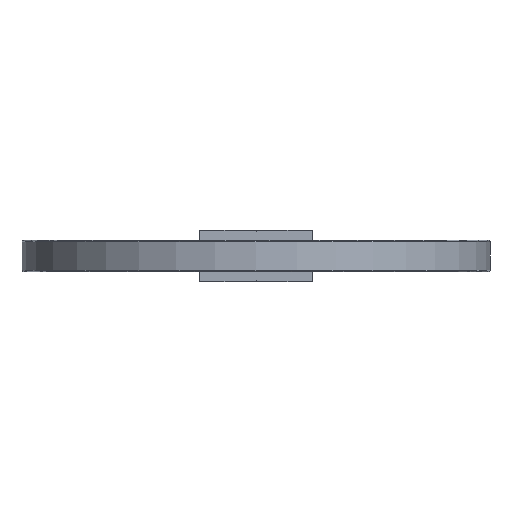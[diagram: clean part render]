
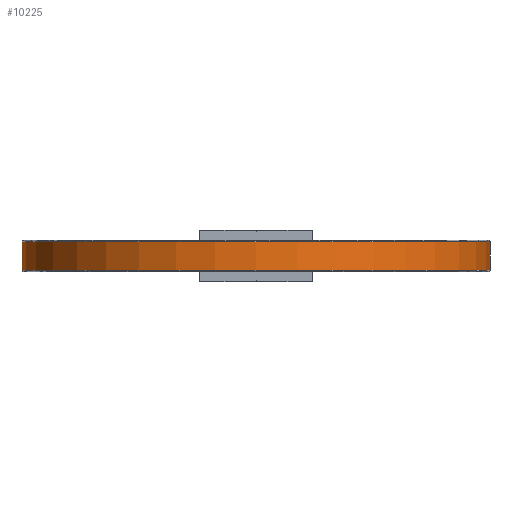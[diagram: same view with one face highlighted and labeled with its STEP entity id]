
A CAD part, front view. The second image highlights one B-rep face of the part: STEP entity #10225.
In plain terms, the highlighted cylindrical face has radius 75 mm (diameter 150 mm), a partial arc.
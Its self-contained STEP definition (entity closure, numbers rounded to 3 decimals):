
#552 = CARTESIAN_POINT ( 'NONE',  ( 0., 0., 0. ) ) ;
#1250 = CARTESIAN_POINT ( 'NONE',  ( 0., 0.4, -75. ) ) ;
#1570 = DIRECTION ( 'NONE',  ( 0., -1., 0. ) ) ;
#1580 = DIRECTION ( 'NONE',  ( 0., 0., -1. ) ) ;
#1765 = CARTESIAN_POINT ( 'NONE',  ( 0., 9.6, -75. ) ) ;
#1834 = CARTESIAN_POINT ( 'NONE',  ( 0., 0.4, 0. ) ) ;
#1904 = CIRCLE ( 'NONE', #2315, 75. ) ;
#2166 = VERTEX_POINT ( 'NONE', #5404 ) ;
#2315 = AXIS2_PLACEMENT_3D ( 'NONE', #3233, #8818, #1580 ) ;
#3233 = CARTESIAN_POINT ( 'NONE',  ( 0., 9.6, 0. ) ) ;
#3364 = LINE ( 'NONE', #8769, #4609 ) ;
#3550 = ORIENTED_EDGE ( 'NONE', *, *, #8756, .T. ) ;
#3668 = CYLINDRICAL_SURFACE ( 'NONE', #3810, 75. ) ;
#3693 = EDGE_CURVE ( 'NONE', #2166, #9492, #1904, .T. ) ;
#3810 = AXIS2_PLACEMENT_3D ( 'NONE', #552, #7039, #10108 ) ;
#3857 = VERTEX_POINT ( 'NONE', #4994 ) ;
#3918 = EDGE_CURVE ( 'NONE', #3857, #8648, #8393, .T. ) ;
#4609 = VECTOR ( 'NONE', #7952, 1000. ) ;
#4994 = CARTESIAN_POINT ( 'NONE',  ( 0., 0.4, 75. ) ) ;
#5247 = AXIS2_PLACEMENT_3D ( 'NONE', #1834, #6733, #6763 ) ;
#5286 = EDGE_CURVE ( 'NONE', #2166, #3857, #3364, .T. ) ;
#5404 = CARTESIAN_POINT ( 'NONE',  ( 0., 9.6, 75. ) ) ;
#5616 = ORIENTED_EDGE ( 'NONE', *, *, #3918, .F. ) ;
#6316 = ORIENTED_EDGE ( 'NONE', *, *, #3693, .T. ) ;
#6733 = DIRECTION ( 'NONE',  ( 0., -1., 0. ) ) ;
#6763 = DIRECTION ( 'NONE',  ( 0., 0., -1. ) ) ;
#6844 = FACE_OUTER_BOUND ( 'NONE', #9450, .T. ) ;
#7039 = DIRECTION ( 'NONE',  ( 0., -1., 0. ) ) ;
#7434 = VECTOR ( 'NONE', #1570, 1000. ) ;
#7582 = LINE ( 'NONE', #8844, #7434 ) ;
#7794 = ORIENTED_EDGE ( 'NONE', *, *, #5286, .F. ) ;
#7952 = DIRECTION ( 'NONE',  ( 0., -1., 0. ) ) ;
#8393 = CIRCLE ( 'NONE', #5247, 75. ) ;
#8648 = VERTEX_POINT ( 'NONE', #1250 ) ;
#8756 = EDGE_CURVE ( 'NONE', #9492, #8648, #7582, .T. ) ;
#8769 = CARTESIAN_POINT ( 'NONE',  ( 0., 0., 75. ) ) ;
#8818 = DIRECTION ( 'NONE',  ( 0., -1., 0. ) ) ;
#8844 = CARTESIAN_POINT ( 'NONE',  ( 0., 0., -75. ) ) ;
#9450 = EDGE_LOOP ( 'NONE', ( #7794, #6316, #3550, #5616 ) ) ;
#9492 = VERTEX_POINT ( 'NONE', #1765 ) ;
#10108 = DIRECTION ( 'NONE',  ( 0., 0., -1. ) ) ;
#10225 = ADVANCED_FACE ( 'NONE', ( #6844 ), #3668, .T. ) ;
